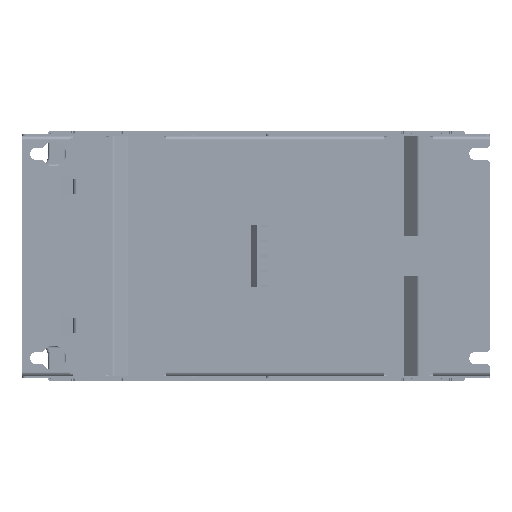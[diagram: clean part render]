
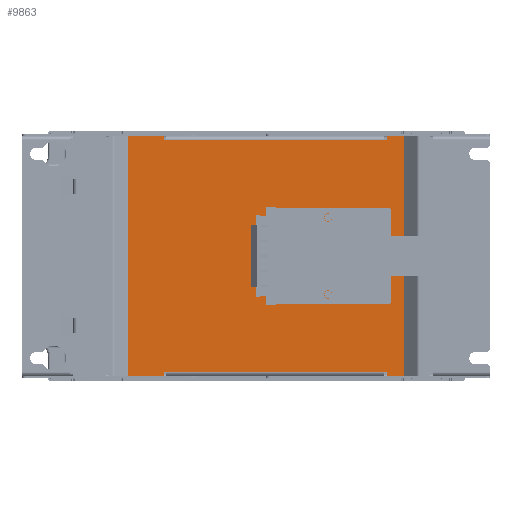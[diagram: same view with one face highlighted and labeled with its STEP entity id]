
A CAD part, front view. The second image highlights one B-rep face of the part: STEP entity #9863.
In plain terms, the highlighted planar face has unit normal (0, -1, 0) as drawn and (0, 0, -1) by its records, which use the part's own axes.
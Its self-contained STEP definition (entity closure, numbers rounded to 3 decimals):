
#6513=DIRECTION('',(0.,-1.,0.));
#6514=VECTOR('',#6513,112.994);
#6515=CARTESIAN_POINT('',(60.3,-8.503,-1.1));
#6516=LINE('',#6515,#6514);
#6521=DIRECTION('',(0.,1.,0.));
#6522=VECTOR('',#6521,1.251);
#6523=CARTESIAN_POINT('',(-10.5,-131.751,-1.1));
#6524=LINE('',#6523,#6522);
#6525=DIRECTION('',(1.,0.,0.));
#6526=VECTOR('',#6525,21.);
#6527=CARTESIAN_POINT('',(-10.5,-130.5,-1.1));
#6528=LINE('',#6527,#6526);
#6529=DIRECTION('',(-1.,0.,0.));
#6530=VECTOR('',#6529,2.);
#6531=CARTESIAN_POINT('',(62.3,-122.997,-1.1));
#6532=LINE('',#6531,#6530);
#6533=DIRECTION('',(0.,1.,0.));
#6534=VECTOR('',#6533,1.5);
#6535=CARTESIAN_POINT('',(60.3,-122.997,-1.1));
#6536=LINE('',#6535,#6534);
#6537=DIRECTION('',(0.,1.,0.));
#6538=VECTOR('',#6537,1.5);
#6539=CARTESIAN_POINT('',(60.3,-8.503,-1.1));
#6540=LINE('',#6539,#6538);
#6541=DIRECTION('',(0.,-1.,0.));
#6542=VECTOR('',#6541,18.654);
#6543=CARTESIAN_POINT('',(-62.3,11.651,-1.1));
#6544=LINE('',#6543,#6542);
#6545=DIRECTION('',(1.,0.,0.));
#6546=VECTOR('',#6545,2.);
#6547=CARTESIAN_POINT('',(-62.3,-7.003,-1.1));
#6548=LINE('',#6547,#6546);
#6549=DIRECTION('',(0.,-1.,0.));
#6550=VECTOR('',#6549,8.754);
#6551=CARTESIAN_POINT('',(-62.3,-122.997,-1.1));
#6552=LINE('',#6551,#6550);
#6553=CARTESIAN_POINT('',(20.,-92.5,-1.1));
#6554=DIRECTION('',(0.,0.,-1.));
#6555=DIRECTION('',(-1.,0.,0.));
#6556=AXIS2_PLACEMENT_3D('',#6553,#6554,#6555);
#6558=CARTESIAN_POINT('',(20.,-92.5,-1.1));
#6559=DIRECTION('',(0.,0.,-1.));
#6560=DIRECTION('',(1.,0.,0.));
#6561=AXIS2_PLACEMENT_3D('',#6558,#6559,#6560);
#6563=CARTESIAN_POINT('',(-20.,-92.5,-1.1));
#6564=DIRECTION('',(0.,0.,-1.));
#6565=DIRECTION('',(-1.,0.,0.));
#6566=AXIS2_PLACEMENT_3D('',#6563,#6564,#6565);
#6568=CARTESIAN_POINT('',(-20.,-92.5,-1.1));
#6569=DIRECTION('',(0.,0.,-1.));
#6570=DIRECTION('',(1.,0.,0.));
#6571=AXIS2_PLACEMENT_3D('',#6568,#6569,#6570);
#6577=DIRECTION('',(-1.,0.,0.));
#6578=VECTOR('',#6577,51.8);
#6579=CARTESIAN_POINT('',(-10.5,-131.751,-1.1));
#6580=LINE('',#6579,#6578);
#6957=DIRECTION('',(0.,-1.,0.));
#6958=VECTOR('',#6957,8.754);
#6959=CARTESIAN_POINT('',(62.3,-122.997,-1.1));
#6960=LINE('',#6959,#6958);
#7018=DIRECTION('',(0.,1.,0.));
#7019=VECTOR('',#7018,1.251);
#7020=CARTESIAN_POINT('',(10.5,-131.751,-1.1));
#7021=LINE('',#7020,#7019);
#7191=DIRECTION('',(1.,0.,0.));
#7192=VECTOR('',#7191,2.);
#7193=CARTESIAN_POINT('',(-62.3,-122.997,-1.1));
#7194=LINE('',#7193,#7192);
#7195=DIRECTION('',(0.,1.,0.));
#7196=VECTOR('',#7195,1.5);
#7197=CARTESIAN_POINT('',(-60.3,-122.997,-1.1));
#7198=LINE('',#7197,#7196);
#7229=DIRECTION('',(0.,1.,0.));
#7230=VECTOR('',#7229,112.994);
#7231=CARTESIAN_POINT('',(-60.3,-121.497,-1.1));
#7232=LINE('',#7231,#7230);
#7247=DIRECTION('',(0.,1.,0.));
#7248=VECTOR('',#7247,1.5);
#7249=CARTESIAN_POINT('',(-60.3,-8.503,-1.1));
#7250=LINE('',#7249,#7248);
#7299=DIRECTION('',(1.,0.,0.));
#7300=VECTOR('',#7299,124.6);
#7301=CARTESIAN_POINT('',(-62.3,11.651,-1.1));
#7302=LINE('',#7301,#7300);
#7316=DIRECTION('',(0.,-1.,0.));
#7317=VECTOR('',#7316,18.654);
#7318=CARTESIAN_POINT('',(62.3,11.651,-1.1));
#7319=LINE('',#7318,#7317);
#8331=DIRECTION('',(-1.,0.,0.));
#8332=VECTOR('',#8331,2.);
#8333=CARTESIAN_POINT('',(62.3,-7.003,-1.1));
#8334=LINE('',#8333,#8332);
#8741=DIRECTION('',(1.,0.,0.));
#8742=VECTOR('',#8741,5.35);
#8743=CARTESIAN_POINT('',(-25.3,-65.3,-1.1));
#8744=LINE('',#8743,#8742);
#8749=DIRECTION('',(0.,-1.,0.));
#8750=VECTOR('',#8749,5.);
#8751=CARTESIAN_POINT('',(-25.3,-60.3,-1.1));
#8752=LINE('',#8751,#8750);
#8757=DIRECTION('',(-1.,0.,0.));
#8758=VECTOR('',#8757,5.35);
#8759=CARTESIAN_POINT('',(-19.95,-60.3,-1.1));
#8760=LINE('',#8759,#8758);
#8765=DIRECTION('',(0.,1.,0.));
#8766=VECTOR('',#8765,5.);
#8767=CARTESIAN_POINT('',(-19.95,-65.3,-1.1));
#8768=LINE('',#8767,#8766);
#8773=DIRECTION('',(-1.,0.,0.));
#8774=VECTOR('',#8773,5.35);
#8775=CARTESIAN_POINT('',(25.3,-60.3,-1.1));
#8776=LINE('',#8775,#8774);
#8781=DIRECTION('',(0.,1.,0.));
#8782=VECTOR('',#8781,5.);
#8783=CARTESIAN_POINT('',(25.3,-65.3,-1.1));
#8784=LINE('',#8783,#8782);
#8789=DIRECTION('',(1.,0.,0.));
#8790=VECTOR('',#8789,5.35);
#8791=CARTESIAN_POINT('',(19.95,-65.3,-1.1));
#8792=LINE('',#8791,#8790);
#8797=DIRECTION('',(0.,-1.,0.));
#8798=VECTOR('',#8797,5.);
#8799=CARTESIAN_POINT('',(19.95,-60.3,-1.1));
#8800=LINE('',#8799,#8798);
#8813=DIRECTION('',(-1.,0.,0.));
#8814=VECTOR('',#8813,51.8);
#8815=CARTESIAN_POINT('',(62.3,-131.751,-1.1));
#8816=LINE('',#8815,#8814);
#8975=CARTESIAN_POINT('',(60.3,-8.503,-1.1));
#8977=VERTEX_POINT('',#8975);
#8987=CARTESIAN_POINT('',(60.3,-121.497,-1.1));
#8988=VERTEX_POINT('',#8987);
#8991=CARTESIAN_POINT('',(-10.5,-131.751,-1.1));
#8992=CARTESIAN_POINT('',(-62.3,-131.751,-1.1));
#8993=VERTEX_POINT('',#8991);
#8994=VERTEX_POINT('',#8992);
#8995=CARTESIAN_POINT('',(-10.5,-130.5,-1.1));
#8996=VERTEX_POINT('',#8995);
#8997=CARTESIAN_POINT('',(10.5,-130.5,-1.1));
#8998=VERTEX_POINT('',#8997);
#8999=CARTESIAN_POINT('',(10.5,-131.751,-1.1));
#9000=VERTEX_POINT('',#8999);
#9001=CARTESIAN_POINT('',(62.3,-131.751,-1.1));
#9002=VERTEX_POINT('',#9001);
#9003=CARTESIAN_POINT('',(62.3,-122.997,-1.1));
#9004=VERTEX_POINT('',#9003);
#9005=CARTESIAN_POINT('',(60.3,-122.997,-1.1));
#9006=VERTEX_POINT('',#9005);
#9007=CARTESIAN_POINT('',(60.3,-7.003,-1.1));
#9008=VERTEX_POINT('',#9007);
#9009=CARTESIAN_POINT('',(62.3,-7.003,-1.1));
#9010=VERTEX_POINT('',#9009);
#9011=CARTESIAN_POINT('',(62.3,11.651,-1.1));
#9012=VERTEX_POINT('',#9011);
#9013=CARTESIAN_POINT('',(-62.3,11.651,-1.1));
#9014=VERTEX_POINT('',#9013);
#9015=CARTESIAN_POINT('',(-62.3,-7.003,-1.1));
#9016=VERTEX_POINT('',#9015);
#9017=CARTESIAN_POINT('',(-60.3,-7.003,-1.1));
#9018=VERTEX_POINT('',#9017);
#9019=CARTESIAN_POINT('',(-60.3,-8.503,-1.1));
#9020=VERTEX_POINT('',#9019);
#9021=CARTESIAN_POINT('',(-60.3,-121.497,-1.1));
#9022=VERTEX_POINT('',#9021);
#9023=CARTESIAN_POINT('',(-60.3,-122.997,-1.1));
#9024=VERTEX_POINT('',#9023);
#9025=CARTESIAN_POINT('',(-62.3,-122.997,-1.1));
#9026=VERTEX_POINT('',#9025);
#9027=CARTESIAN_POINT('',(18.,-92.5,-1.1));
#9028=CARTESIAN_POINT('',(22.,-92.5,-1.1));
#9029=VERTEX_POINT('',#9027);
#9030=VERTEX_POINT('',#9028);
#9031=CARTESIAN_POINT('',(-22.,-92.5,-1.1));
#9032=CARTESIAN_POINT('',(-18.,-92.5,-1.1));
#9033=VERTEX_POINT('',#9031);
#9034=VERTEX_POINT('',#9032);
#9035=CARTESIAN_POINT('',(-25.3,-65.3,-1.1));
#9036=CARTESIAN_POINT('',(-19.95,-65.3,-1.1));
#9037=VERTEX_POINT('',#9035);
#9038=VERTEX_POINT('',#9036);
#9039=CARTESIAN_POINT('',(-25.3,-60.3,-1.1));
#9040=VERTEX_POINT('',#9039);
#9041=CARTESIAN_POINT('',(-19.95,-60.3,-1.1));
#9042=VERTEX_POINT('',#9041);
#9043=CARTESIAN_POINT('',(25.3,-60.3,-1.1));
#9044=CARTESIAN_POINT('',(19.95,-60.3,-1.1));
#9045=VERTEX_POINT('',#9043);
#9046=VERTEX_POINT('',#9044);
#9047=CARTESIAN_POINT('',(25.3,-65.3,-1.1));
#9048=VERTEX_POINT('',#9047);
#9049=CARTESIAN_POINT('',(19.95,-65.3,-1.1));
#9050=VERTEX_POINT('',#9049);
#9785=CARTESIAN_POINT('',(0.,0.,-1.1));
#9786=DIRECTION('',(0.,0.,1.));
#9787=DIRECTION('',(1.,0.,0.));
#9788=AXIS2_PLACEMENT_3D('',#9785,#9786,#9787);
#9789=PLANE('',#9788);
#9791=ORIENTED_EDGE('',*,*,#9790,.F.);
#9793=ORIENTED_EDGE('',*,*,#9792,.T.);
#9795=ORIENTED_EDGE('',*,*,#9794,.T.);
#9797=ORIENTED_EDGE('',*,*,#9796,.F.);
#9799=ORIENTED_EDGE('',*,*,#9798,.F.);
#9801=ORIENTED_EDGE('',*,*,#9800,.F.);
#9803=ORIENTED_EDGE('',*,*,#9802,.T.);
#9805=ORIENTED_EDGE('',*,*,#9804,.T.);
#9806=ORIENTED_EDGE('',*,*,#9776,.F.);
#9808=ORIENTED_EDGE('',*,*,#9807,.T.);
#9810=ORIENTED_EDGE('',*,*,#9809,.F.);
#9812=ORIENTED_EDGE('',*,*,#9811,.F.);
#9814=ORIENTED_EDGE('',*,*,#9813,.F.);
#9816=ORIENTED_EDGE('',*,*,#9815,.T.);
#9818=ORIENTED_EDGE('',*,*,#9817,.T.);
#9820=ORIENTED_EDGE('',*,*,#9819,.F.);
#9822=ORIENTED_EDGE('',*,*,#9821,.F.);
#9824=ORIENTED_EDGE('',*,*,#9823,.F.);
#9826=ORIENTED_EDGE('',*,*,#9825,.F.);
#9828=ORIENTED_EDGE('',*,*,#9827,.T.);
#9829=EDGE_LOOP('',(#9791,#9793,#9795,#9797,#9799,#9801,#9803,#9805,#9806,#9808,
#9810,#9812,#9814,#9816,#9818,#9820,#9822,#9824,#9826,#9828));
#9830=FACE_OUTER_BOUND('',#9829,.F.);
#9832=ORIENTED_EDGE('',*,*,#9831,.T.);
#9834=ORIENTED_EDGE('',*,*,#9833,.T.);
#9835=EDGE_LOOP('',(#9832,#9834));
#9836=FACE_BOUND('',#9835,.F.);
#9838=ORIENTED_EDGE('',*,*,#9837,.T.);
#9840=ORIENTED_EDGE('',*,*,#9839,.T.);
#9841=EDGE_LOOP('',(#9838,#9840));
#9842=FACE_BOUND('',#9841,.F.);
#9844=ORIENTED_EDGE('',*,*,#9843,.F.);
#9846=ORIENTED_EDGE('',*,*,#9845,.F.);
#9848=ORIENTED_EDGE('',*,*,#9847,.F.);
#9850=ORIENTED_EDGE('',*,*,#9849,.F.);
#9851=EDGE_LOOP('',(#9844,#9846,#9848,#9850));
#9852=FACE_BOUND('',#9851,.F.);
#9854=ORIENTED_EDGE('',*,*,#9853,.F.);
#9856=ORIENTED_EDGE('',*,*,#9855,.F.);
#9858=ORIENTED_EDGE('',*,*,#9857,.F.);
#9860=ORIENTED_EDGE('',*,*,#9859,.F.);
#9861=EDGE_LOOP('',(#9854,#9856,#9858,#9860));
#9862=FACE_BOUND('',#9861,.F.);
#9863=ADVANCED_FACE('',(#9830,#9836,#9842,#9852,#9862),#9789,.F.);
#6557=CIRCLE('',#6556,2.);
#6562=CIRCLE('',#6561,2.);
#6567=CIRCLE('',#6566,2.);
#6572=CIRCLE('',#6571,2.);
#9776=EDGE_CURVE('',#8977,#8988,#6516,.T.);
#9790=EDGE_CURVE('',#8993,#8994,#6580,.T.);
#9792=EDGE_CURVE('',#8993,#8996,#6524,.T.);
#9794=EDGE_CURVE('',#8996,#8998,#6528,.T.);
#9796=EDGE_CURVE('',#9000,#8998,#7021,.T.);
#9798=EDGE_CURVE('',#9002,#9000,#8816,.T.);
#9800=EDGE_CURVE('',#9004,#9002,#6960,.T.);
#9802=EDGE_CURVE('',#9004,#9006,#6532,.T.);
#9804=EDGE_CURVE('',#9006,#8988,#6536,.T.);
#9807=EDGE_CURVE('',#8977,#9008,#6540,.T.);
#9809=EDGE_CURVE('',#9010,#9008,#8334,.T.);
#9811=EDGE_CURVE('',#9012,#9010,#7319,.T.);
#9813=EDGE_CURVE('',#9014,#9012,#7302,.T.);
#9815=EDGE_CURVE('',#9014,#9016,#6544,.T.);
#9817=EDGE_CURVE('',#9016,#9018,#6548,.T.);
#9819=EDGE_CURVE('',#9020,#9018,#7250,.T.);
#9821=EDGE_CURVE('',#9022,#9020,#7232,.T.);
#9823=EDGE_CURVE('',#9024,#9022,#7198,.T.);
#9825=EDGE_CURVE('',#9026,#9024,#7194,.T.);
#9827=EDGE_CURVE('',#9026,#8994,#6552,.T.);
#9831=EDGE_CURVE('',#9029,#9030,#6557,.T.);
#9833=EDGE_CURVE('',#9030,#9029,#6562,.T.);
#9837=EDGE_CURVE('',#9033,#9034,#6567,.T.);
#9839=EDGE_CURVE('',#9034,#9033,#6572,.T.);
#9843=EDGE_CURVE('',#9037,#9038,#8744,.T.);
#9845=EDGE_CURVE('',#9040,#9037,#8752,.T.);
#9847=EDGE_CURVE('',#9042,#9040,#8760,.T.);
#9849=EDGE_CURVE('',#9038,#9042,#8768,.T.);
#9853=EDGE_CURVE('',#9045,#9046,#8776,.T.);
#9855=EDGE_CURVE('',#9048,#9045,#8784,.T.);
#9857=EDGE_CURVE('',#9050,#9048,#8792,.T.);
#9859=EDGE_CURVE('',#9046,#9050,#8800,.T.);
